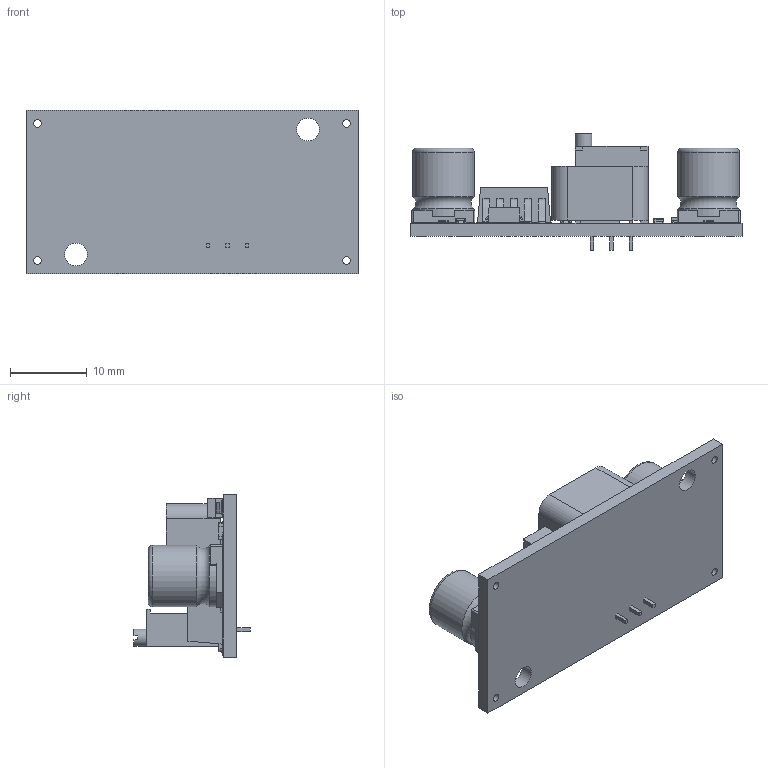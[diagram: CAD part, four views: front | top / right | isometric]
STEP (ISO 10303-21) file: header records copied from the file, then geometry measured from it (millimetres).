
FILE_DESCRIPTION(/* description */ (''),/* implementation_level */ '2;1');
FILE_NAME(/* name */ 'C:\Users\alber\Desktop\Files\Ender3-Upgrade\CAD\LM2596 DC to DC Buck Converter 3 A\converterLM2596.stp',/* time_stamp */ '2023-03-02T15:11:58+01:00',/* author */ ('alber'),/* organization */ (''),/* preprocessor_version */ 'ST-DEVELOPER v19',/* originating_system */ 'Autodesk Inventor 2023',/* authorisation */ '');
FILE_SCHEMA (('AUTOMOTIVE_DESIGN { 1 0 10303 214 3 1 1 }'));
Products named in the file (12): converterLM2596; lm2596board; smd100uF; smd220uF; TrimmerW203; smdS537diode; smdceramiccapacitor; smdResistor331; smdResistor102; smdLED; smbInductor470; LM2596S
Assembly tree (12 placements, depth 2):
  converterLM2596
    lm2596board
    smd100uF
    smd220uF
    TrimmerW203
    smdS537diode
    smdceramiccapacitor  x2
    smdResistor331
    smdResistor102
    smdLED
    smbInductor470
    LM2596S
Bounding box: 43.2 x 15.15 x 21.25 mm (x, y, z)
Volume: 4346.7 mm3; surface area: 4981 mm2
Topology: 47 solids, 47 shells, 1332 faces, 3446 edges, 2290 vertices
Faces by surface type: plane 847, bspline 403, cylinder 78, torus 4
Full cylindrical faces by diameter (mm): 1 x4, 2.2 x1, 2.95 x2, 4.5 x2, 8 x4, 8.7 x1
Entity records: 65497 total; most frequent: CARTESIAN_POINT 34549, ORIENTED_EDGE 6744, DIRECTION 4606, EDGE_CURVE 3372, LINE 2396, VECTOR 2396, VERTEX_POINT 2246, EDGE_LOOP 1406
